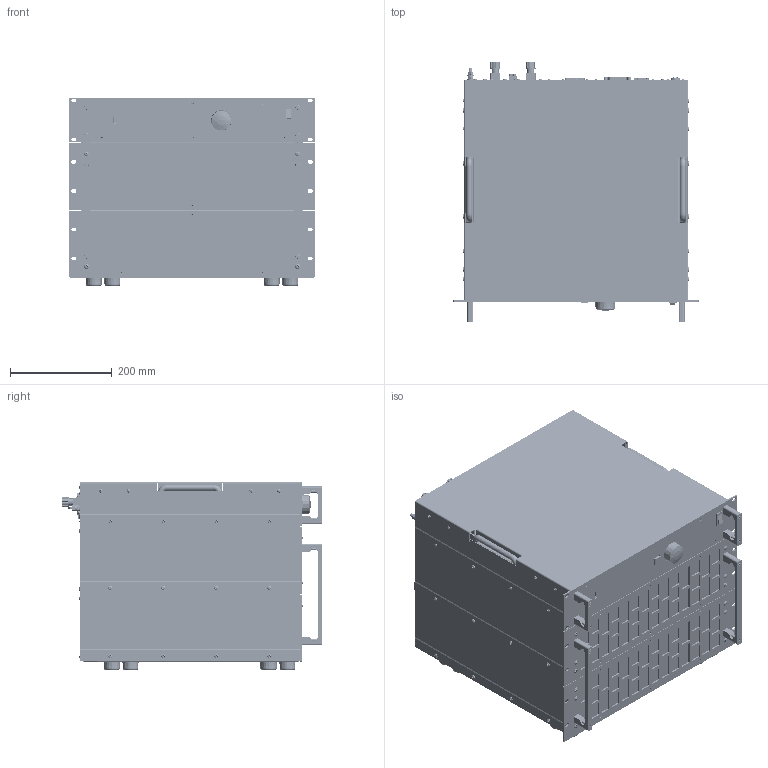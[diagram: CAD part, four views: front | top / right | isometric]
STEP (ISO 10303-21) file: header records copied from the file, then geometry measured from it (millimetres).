
FILE_DESCRIPTION(('STEP AP214'),'1');
FILE_NAME('QL_M21_19Z_8HE_BPK4_30L_3D_01.step','2022-03-17T06:44:35',(' '),(' '),'Spatial InterOp 3D',' ',' ');
FILE_SCHEMA(('AUTOMOTIVE_DESIGN { 1 0 10303 214 1 1 1 1 }'));
Length unit declared in the file: millimetre
Products named in the file (41): DIN 7985-AxM4 X 0.7x5; 3HE_Leistungsteil_mit_Gummifüssen_3D_01; *U404; *U405; *U406; *U415; AutoCreatedBlock_4341; 3HE_Leistungsteil_3D_01; *U519; *U520; *U521; AutoCreatedBlock_4367; DIN 966-A; Steuereinheit_BPK4_30L_mit_BG452_3D_01; 2121_Steuerteil_modular_Seitenteil_links_3D_02; 2122_Steuerteil_modular_Seitenteil_rechts_3D_02; A$C5EF2ED09; 3xM2.5_5x5x12; AutoCreatedBlock_4387; A$C6092449D; Frontplatte_5HE_Steuerteil_mit_Einbauten_3D; A$C60925E47; A$C60A76697; 2246_QL Rückwand Steuerteil 5HE_mit_Einbauten_3D_01; *U305; *U306; *U307; AutoCreatedBlock_4399; 2257_QL_IO Panel Standard_3D_01; 2084_IO-Port Abdeckung_3D_01; *U733; *U734; *U735; *U736; *U737; BG452_mit_MT1955_3D_01; *U564; AutoCreatedBlock_4421; AutoCreatedBlock_4377; AutoCreatedBlock_4335
Assembly tree (153 placements, depth 4):
  (unnamed)
    DIN 7985-AxM4 X 0.7x5  x4
    3HE_Leistungsteil_mit_Gummifüssen_3D_01
      *U404  x10
      *U405  x6
      *U406  x6
      *U415  x6
      AutoCreatedBlock_4341
    3HE_Leistungsteil_3D_01
      *U519  x14
      *U520  x6
      *U521  x6
      AutoCreatedBlock_4367
    DIN 966-A  x5
    Steuereinheit_BPK4_30L_mit_BG452_3D_01
      2121_Steuerteil_modular_Seitenteil_links_3D_02
      2122_Steuerteil_modular_Seitenteil_rechts_3D_02
      A$C5EF2ED09
        3xM2.5_5x5x12  x2
        AutoCreatedBlock_4387
      A$C6092449D
      Frontplatte_5HE_Steuerteil_mit_Einbauten_3D
      A$C60925E47
      A$C60A76697
      2246_QL Rückwand Steuerteil 5HE_mit_Einbauten_3D_01
        *U305
        *U306  x2
        *U307  x3
        AutoCreatedBlock_4399
      2257_QL_IO Panel Standard_3D_01
      2084_IO-Port Abdeckung_3D_01  x2
      *U733  x17
      *U734  x9
      *U735  x26
      *U736  x2
      *U737  x4
      BG452_mit_MT1955_3D_01
        *U564  x2
        AutoCreatedBlock_4421
      AutoCreatedBlock_4377
    AutoCreatedBlock_4335
Bounding box: 482.61 x 511.97 x 371.22 mm (x, y, z)
Volume: 33453940.5 mm3; surface area: 4641079.8 mm2
Topology: 425 solids, 862 shells, 27899 faces, 70030 edges, 44072 vertices
Faces by surface type: plane 12092, cone 10655, cylinder 4108, torus 451, sphere 302, bspline 269, extrusion 22
Entity records: 854650 total; most frequent: CARTESIAN_POINT 156081, DIRECTION 112645, ORIENTED_EDGE 104780, EDGE_CURVE 53796, AXIS2_PLACEMENT_3D 38854, VECTOR 34937, LINE 34915, VERTEX_POINT 34057
